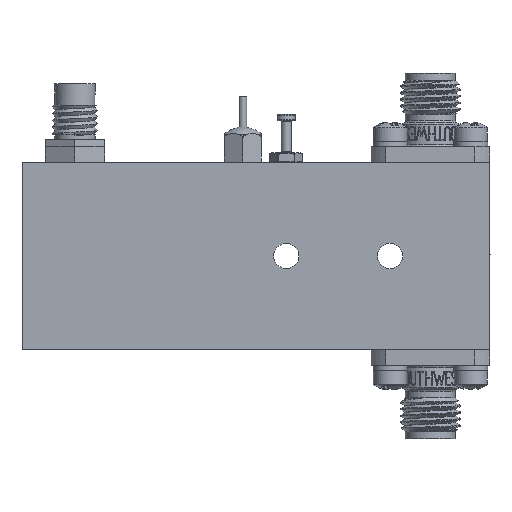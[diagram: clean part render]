
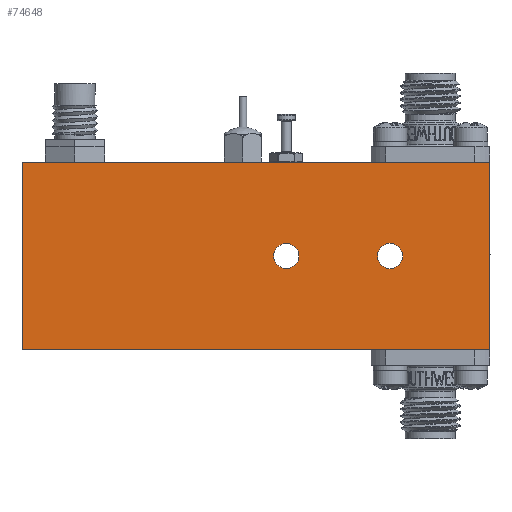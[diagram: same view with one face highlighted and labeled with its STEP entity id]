
A CAD part, front view. The second image highlights one B-rep face of the part: STEP entity #74648.
In plain terms, the highlighted planar face has unit normal (0, -1, 0).
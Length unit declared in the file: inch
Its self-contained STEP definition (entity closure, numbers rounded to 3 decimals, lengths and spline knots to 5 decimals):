
#1185 = FACE_BOUND ( 'NONE', #46056, .T. ) ;
#2240 = VERTEX_POINT ( 'NONE', #57705 ) ;
#5747 = AXIS2_PLACEMENT_3D ( 'NONE', #67306, #14843, #44254 ) ;
#8704 = DIRECTION ( 'NONE',  ( 0., 1., 0. ) ) ;
#13276 = EDGE_CURVE ( 'NONE', #55445, #55445, #36726, .T. ) ;
#13640 = DIRECTION ( 'NONE',  ( 0., -1., 0. ) ) ;
#13738 = EDGE_LOOP ( 'NONE', ( #26139, #46504, #47234, #21834 ) ) ;
#14843 = DIRECTION ( 'NONE',  ( 0., 1., 0. ) ) ;
#15783 = CARTESIAN_POINT ( 'NONE',  ( 36.79875, 39.45661, 41.01542 ) ) ;
#18514 = PLANE ( 'NONE',  #66296 ) ;
#18576 = VECTOR ( 'NONE', #43031, 39.37008 ) ;
#19269 = CARTESIAN_POINT ( 'NONE',  ( 36.79875, 39.45661, 41.01542 ) ) ;
#20309 = ORIENTED_EDGE ( 'NONE', *, *, #13276, .T. ) ;
#21834 = ORIENTED_EDGE ( 'NONE', *, *, #64031, .F. ) ;
#22217 = AXIS2_PLACEMENT_3D ( 'NONE', #59281, #8704, #47506 ) ;
#24116 = CARTESIAN_POINT ( 'NONE',  ( 36.79875, 39.45661, 41.01542 ) ) ;
#24184 = FACE_OUTER_BOUND ( 'NONE', #13738, .T. ) ;
#26007 = VERTEX_POINT ( 'NONE', #60197 ) ;
#26139 = ORIENTED_EDGE ( 'NONE', *, *, #61679, .F. ) ;
#26228 = CIRCLE ( 'NONE', #5747, 0.053 ) ;
#27804 = LINE ( 'NONE', #15783, #48931 ) ;
#30186 = LINE ( 'NONE', #24116, #33153 ) ;
#32394 = DIRECTION ( 'NONE',  ( 1., 0., 0. ) ) ;
#33153 = VECTOR ( 'NONE', #42605, 39.37008 ) ;
#35859 = EDGE_LOOP ( 'NONE', ( #72328 ) ) ;
#36119 = VERTEX_POINT ( 'NONE', #59163 ) ;
#36331 = EDGE_CURVE ( 'NONE', #36119, #36119, #26228, .T. ) ;
#36726 = CIRCLE ( 'NONE', #22217, 0.053 ) ;
#38818 = EDGE_CURVE ( 'NONE', #2240, #61211, #66105, .T. ) ;
#39717 = CARTESIAN_POINT ( 'NONE',  ( 36.79875, 39.45661, 41.01542 ) ) ;
#42605 = DIRECTION ( 'NONE',  ( 0., 0., 1. ) ) ;
#43031 = DIRECTION ( 'NONE',  ( 0., 0., -1. ) ) ;
#43349 = VECTOR ( 'NONE', #73643, 39.37008 ) ;
#43770 = EDGE_CURVE ( 'NONE', #26007, #2240, #48678, .T. ) ;
#44254 = DIRECTION ( 'NONE',  ( 0., 0., 1. ) ) ;
#45577 = VERTEX_POINT ( 'NONE', #39717 ) ;
#46056 = EDGE_LOOP ( 'NONE', ( #20309 ) ) ;
#46504 = ORIENTED_EDGE ( 'NONE', *, *, #38818, .F. ) ;
#47234 = ORIENTED_EDGE ( 'NONE', *, *, #43770, .F. ) ;
#47506 = DIRECTION ( 'NONE',  ( 0., 0., 1. ) ) ;
#48678 = LINE ( 'NONE', #49792, #18576 ) ;
#48931 = VECTOR ( 'NONE', #32394, 39.37008 ) ;
#49792 = CARTESIAN_POINT ( 'NONE',  ( 38.76875, 39.45661, 41.01542 ) ) ;
#55049 = CARTESIAN_POINT ( 'NONE',  ( 38.34875, 39.45661, 40.67342 ) ) ;
#55132 = DIRECTION ( 'NONE',  ( 0., 0., -1. ) ) ;
#55445 = VERTEX_POINT ( 'NONE', #55049 ) ;
#57705 = CARTESIAN_POINT ( 'NONE',  ( 38.76875, 39.45661, 40.22542 ) ) ;
#58572 = FACE_BOUND ( 'NONE', #35859, .T. ) ;
#59163 = CARTESIAN_POINT ( 'NONE',  ( 37.91175, 39.45661, 40.67342 ) ) ;
#59281 = CARTESIAN_POINT ( 'NONE',  ( 38.34875, 39.45661, 40.62042 ) ) ;
#60197 = CARTESIAN_POINT ( 'NONE',  ( 38.76875, 39.45661, 41.01542 ) ) ;
#61211 = VERTEX_POINT ( 'NONE', #68905 ) ;
#61679 = EDGE_CURVE ( 'NONE', #61211, #45577, #30186, .T. ) ;
#63031 = CARTESIAN_POINT ( 'NONE',  ( 36.79875, 39.45661, 40.22542 ) ) ;
#64031 = EDGE_CURVE ( 'NONE', #45577, #26007, #27804, .T. ) ;
#66105 = LINE ( 'NONE', #63031, #43349 ) ;
#66296 = AXIS2_PLACEMENT_3D ( 'NONE', #19269, #13640, #55132 ) ;
#67306 = CARTESIAN_POINT ( 'NONE',  ( 37.91175, 39.45661, 40.62042 ) ) ;
#68905 = CARTESIAN_POINT ( 'NONE',  ( 36.79875, 39.45661, 40.22542 ) ) ;
#72328 = ORIENTED_EDGE ( 'NONE', *, *, #36331, .T. ) ;
#73643 = DIRECTION ( 'NONE',  ( -1., 0., 0. ) ) ;
#74648 = ADVANCED_FACE ( 'NONE', ( #58572, #1185, #24184 ), #18514, .T. ) ;
